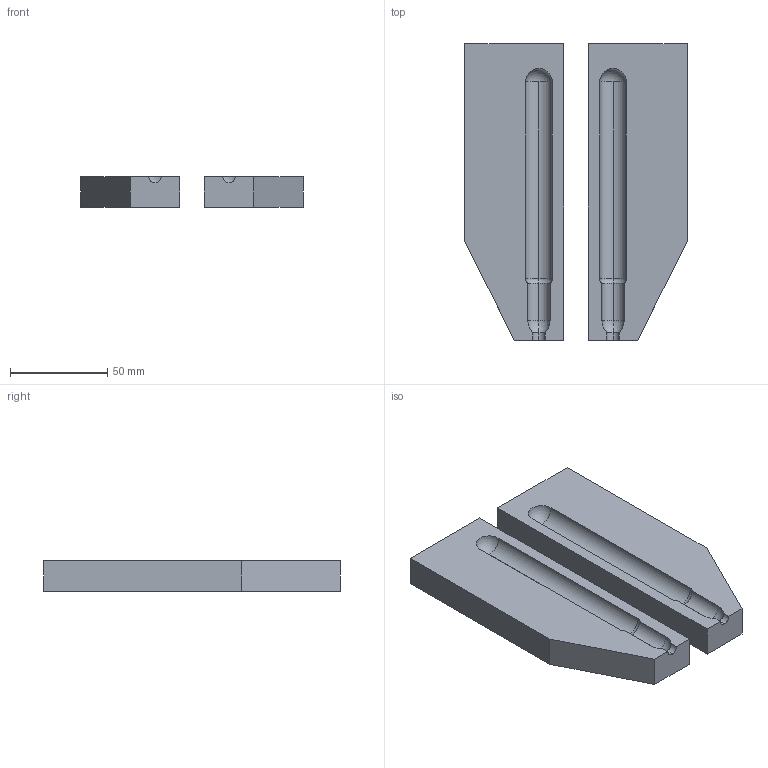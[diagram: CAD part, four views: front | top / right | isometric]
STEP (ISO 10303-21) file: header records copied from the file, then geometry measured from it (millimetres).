
FILE_DESCRIPTION (( 'STEP AP203' ), '1' );
FILE_NAME ('Sharpie_01.STEP', '2017-08-31T15:50:11', ( '' ), ( '' ), 'SwSTEP 2.0', 'SolidWorks 2015', '' );
FILE_SCHEMA (( 'CONFIG_CONTROL_DESIGN' ));
Length unit declared in the file: inch
Products named in the file (1): Sharpie_01
Bounding box: 114.3 x 152.4 x 15.88 mm (x, y, z)
Volume: 206799.9 mm3; surface area: 42789.1 mm2
Topology: 2 solids, 2 shells, 36 faces, 90 edges, 56 vertices
Faces by surface type: plane 14, cylinder 12, torus 8, sphere 2
Entity records: 1143 total; most frequent: DIRECTION 200, CARTESIAN_POINT 181, ORIENTED_EDGE 176, EDGE_CURVE 88, AXIS2_PLACEMENT_3D 75, VERTEX_POINT 56, VECTOR 50, LINE 50
